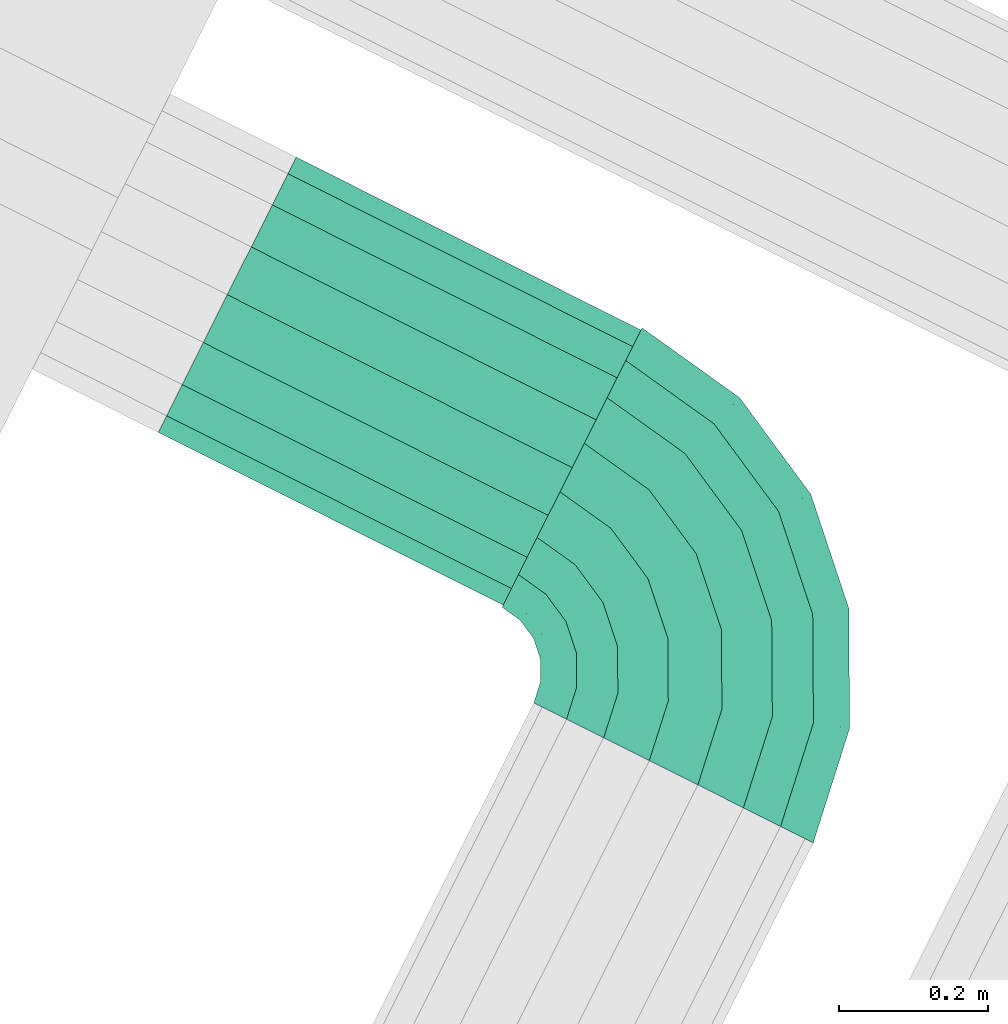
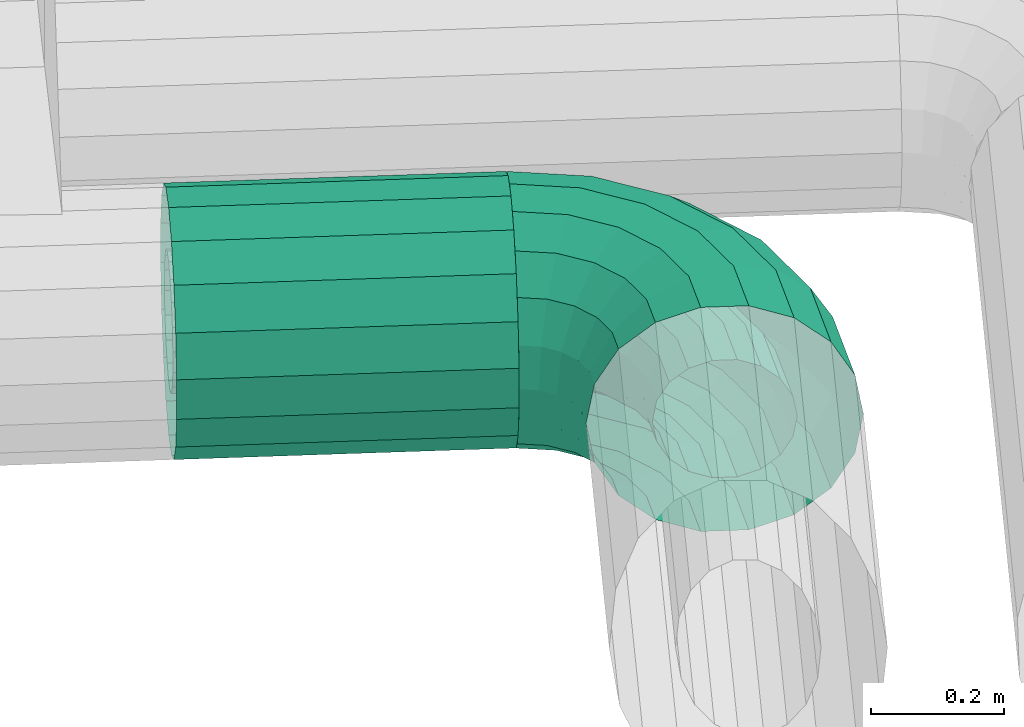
# One storey, part 81 of 152: 2 flow segments.
"""IFC2X3 building model written with IfcOpenShell, lengths in metres."""

from ifc_helpers import new_model, si_unit, derived_unit, direction, frame, origin, place, context, subcontext, project, spatial, face_set, surface_model, source, transform, mapped, material, type_object, type_shapes, element, save


model = new_model("IFC2X3")

# Units and contexts
model_context = context("Model", 3, precision=5.2338327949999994e-05, world=origin(), true_north=direction((0.0, 1.0)))
body_context = subcontext(model_context, "Body", "Model", "MODEL_VIEW")
ifc_project = project(units=[si_unit("LENGTHUNIT", "METRE"), si_unit("AREAUNIT", "SQUARE_METRE"), si_unit("VOLUMEUNIT", "CUBIC_METRE"), si_unit("MASSUNIT", "GRAM", prefix="KILO"), si_unit("PLANEANGLEUNIT", "RADIAN"), derived_unit("THERMALTRANSMITTANCEUNIT", [(si_unit("MASSUNIT", "GRAM", prefix="KILO"), 1), (si_unit("THERMODYNAMICTEMPERATUREUNIT", "KELVIN"), -1), (si_unit("TIMEUNIT", "SECOND"), -3)])], contexts=[model_context])

# Site, building, storey
site_placement = place(None, frame((0.0, 0.0, 0.0), z_axis=(0.0, 0.0, 1.0), x_axis=(0.8939966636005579, -0.4480736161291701, 0.0)))
site = spatial("IfcSite", under=ifc_project, at=site_placement, Name="Default", CompositionType="ELEMENT")
building_placement = place(site_placement, origin())
building = spatial("IfcBuilding", under=site, at=building_placement, CompositionType="ELEMENT")
storey_placement = place(building_placement, frame((0.0, 0.0, 2.7499999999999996)))
storey = spatial("IfcBuildingStorey", under=building, at=storey_placement, Name="1. Obergeschoss", CompositionType="ELEMENT", Elevation=2.7499999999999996)

# Flow segments
ifc_material = material(Name="IfcSurfaceStyle #9317")
distribution_element_type_1 = type_object("IfcDistributionElementType", Name="Rohrbogen 249432:Rohrbogen 249432", material=ifc_material)
shared_shape_1 = source(origin(), body_context, "Body", "SurfaceModel", [
    surface_model("IfcFaceBasedSurfaceModel", [(32.19039487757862, 11.372356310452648, 5.635640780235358), (32.19039487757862, 11.365749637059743, 5.673109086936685), (32.31645629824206, 11.34578346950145, 5.673109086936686), (32.31849787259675, 11.352066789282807, 5.635640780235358), (32.4301779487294, 11.287839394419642, 5.673109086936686), (32.43406125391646, 11.293184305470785, 5.6356407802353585), (32.5204279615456, 11.19758938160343, 5.673109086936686), (32.52577287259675, 11.20147268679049, 5.6356407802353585), (32.57837203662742, 11.083867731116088, 5.673109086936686), (32.584655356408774, 11.085909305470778, 5.6356407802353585), (32.5983382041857, 10.957806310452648, 5.6731090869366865), (32.60494487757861, 10.957806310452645, 5.635640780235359), (32.19039487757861, 11.346726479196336, 5.706058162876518), (32.310577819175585, 11.32769137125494, 5.706058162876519), (32.418996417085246, 11.27244933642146, 5.706058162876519), (32.505037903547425, 11.186407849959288, 5.706058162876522), (32.560279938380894, 11.07798925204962, 5.70605816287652), (32.579315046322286, 10.957806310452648, 5.706058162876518), (32.19039487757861, 11.317581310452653, 5.730513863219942), (32.30157146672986, 11.29997266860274, 5.7305138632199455), (32.40186531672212, 11.248870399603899, 5.730513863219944), (32.48145896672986, 11.169276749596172, 5.730513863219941), (32.532561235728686, 11.068982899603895, 5.730513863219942), (32.550169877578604, 10.957806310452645, 5.730513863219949), (32.19039487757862, 11.281829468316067, 5.743526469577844), (32.29052353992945, 11.265970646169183, 5.743526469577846), (32.38085091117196, 11.219946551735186, 5.743526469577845), (32.45253511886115, 11.148262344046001, 5.743526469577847), (32.49855921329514, 11.057934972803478, 5.743526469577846), (32.51441803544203, 10.957806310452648, 5.743526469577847), (32.19039487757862, 11.243783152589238, 5.743526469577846), (32.2787665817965, 11.229786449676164, 5.743526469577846), (32.35848784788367, 11.189166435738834, 5.743526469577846), (32.42175500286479, 11.125899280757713, 5.743526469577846), (32.46237501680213, 11.046178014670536, 5.743526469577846), (32.4763717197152, 10.957806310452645, 5.743526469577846), (32.19039487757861, 11.208031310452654, 5.730513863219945), (32.26771865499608, 11.195784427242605, 5.730513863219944), (32.33747344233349, 11.160242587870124, 5.730513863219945), (32.39283115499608, 11.10488487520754, 5.7305138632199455), (32.428372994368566, 11.03513008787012, 5.730513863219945), (32.44061987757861, 10.957806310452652, 5.730513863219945), (32.19039487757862, 11.178886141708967, 5.706058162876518), (32.258712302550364, 11.168065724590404, 5.70605816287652), (32.32034234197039, 11.13666365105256, 5.706058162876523), (32.36925221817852, 11.087753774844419, 5.706058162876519), (32.40065429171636, 11.026123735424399, 5.706058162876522), (32.41147470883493, 10.95780631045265, 5.706058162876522), (32.19039487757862, 11.159862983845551, 5.673109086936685), (32.25283382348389, 11.149973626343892, 5.673109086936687), (32.30916081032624, 11.12127359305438, 5.6731090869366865), (32.35386216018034, 11.076572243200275, 5.673109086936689), (32.38256219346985, 11.020245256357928, 5.673109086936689), (32.392451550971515, 10.95780631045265, 5.6731090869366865), (32.19039487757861, 11.153256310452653, 5.6356407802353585), (32.2507922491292, 11.143690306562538, 5.635640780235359), (32.30527750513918, 11.115928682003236, 5.635640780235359), (32.348517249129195, 11.072688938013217, 5.63564078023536), (32.3762788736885, 11.018203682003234, 5.635640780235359), (32.38584487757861, 10.957806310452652, 5.635640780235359), (32.19039487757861, 11.15986298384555, 5.5981724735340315), (32.25283382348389, 11.149973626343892, 5.598172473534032), (32.30916081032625, 11.121273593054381, 5.598172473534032), (32.35386216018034, 11.07657224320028, 5.598172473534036), (32.38256219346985, 11.020245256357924, 5.598172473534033), (32.392451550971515, 10.95780631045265, 5.598172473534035), (32.19039487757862, 11.178886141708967, 5.565223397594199), (32.258712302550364, 11.168065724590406, 5.5652233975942), (32.32034234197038, 11.13666365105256, 5.565223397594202), (32.36925221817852, 11.087753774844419, 5.565223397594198), (32.400654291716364, 11.026123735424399, 5.565223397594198), (32.41147470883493, 10.95780631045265, 5.5652233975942), (32.19039487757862, 11.20803131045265, 5.5407676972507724), (32.26771865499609, 11.195784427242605, 5.540767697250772), (32.33747344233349, 11.160242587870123, 5.540767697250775), (32.39283115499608, 11.104884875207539, 5.540767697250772), (32.42837299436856, 11.03513008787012, 5.540767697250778), (32.44061987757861, 10.95780631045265, 5.540767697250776), (32.19039487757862, 11.243783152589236, 5.52775509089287), (32.2787665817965, 11.229786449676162, 5.527755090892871), (32.35848784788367, 11.189166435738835, 5.527755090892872), (32.42175500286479, 11.12589928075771, 5.527755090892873), (32.46237501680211, 11.046178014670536, 5.527755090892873), (32.476371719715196, 10.957806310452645, 5.5277550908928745), (32.19039487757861, 11.281829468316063, 5.527755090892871), (32.290523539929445, 11.265970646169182, 5.527755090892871), (32.38085091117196, 11.219946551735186, 5.527755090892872), (32.45253511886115, 11.148262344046, 5.527755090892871), (32.49855921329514, 11.057934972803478, 5.527755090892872), (32.51441803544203, 10.957806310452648, 5.527755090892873), (32.19039487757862, 11.317581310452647, 5.540767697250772), (32.30157146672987, 11.299972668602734, 5.5407676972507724), (32.40186531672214, 11.248870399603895, 5.5407676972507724), (32.48145896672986, 11.169276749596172, 5.5407676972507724), (32.5325612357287, 11.068982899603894, 5.5407676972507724), (32.550169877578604, 10.957806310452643, 5.540767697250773), (32.19039487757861, 11.346726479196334, 5.565223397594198), (32.310577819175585, 11.327691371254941, 5.565223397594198), (32.418996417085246, 11.272449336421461, 5.565223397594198), (32.505037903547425, 11.186407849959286, 5.565223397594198), (32.5602799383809, 11.077989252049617, 5.565223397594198), (32.579315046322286, 10.957806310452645, 5.565223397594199), (32.19039487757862, 11.365749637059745, 5.598172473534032), (32.31645629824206, 11.345783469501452, 5.598172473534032), (32.430177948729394, 11.287839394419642, 5.598172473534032), (32.5204279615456, 11.197589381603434, 5.598172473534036), (32.578372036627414, 11.08386773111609, 5.59817247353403), (32.5983382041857, 10.957806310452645, 5.598172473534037), (32.19039487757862, 11.47235631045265, 5.635640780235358), (32.19039487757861, 11.45971889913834, 5.7073111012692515), (32.34549439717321, 11.435153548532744, 5.7073111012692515), (32.349399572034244, 11.44717244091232, 5.6356407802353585), (32.485411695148, 11.36386212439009, 5.7073111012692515), (32.492839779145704, 11.374086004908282, 5.635640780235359), (32.59645069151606, 11.252823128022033, 5.707311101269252), (32.606674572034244, 11.260251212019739, 5.6356407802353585), (32.667742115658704, 11.112905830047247, 5.707311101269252), (32.67976100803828, 11.11681100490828, 5.635640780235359), (32.6923074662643, 10.957806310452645, 5.707311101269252), (32.70494487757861, 10.957806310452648, 5.635640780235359), (32.19039487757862, 11.423330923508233, 5.770336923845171), (32.33424989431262, 11.400546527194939, 5.770336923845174), (32.46402337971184, 11.33442363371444, 5.770336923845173), (32.567012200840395, 11.231434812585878, 5.770336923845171), (32.6331350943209, 11.10166132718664, 5.770336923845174), (32.65591949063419, 10.957806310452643, 5.770336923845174), (32.19039487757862, 11.367581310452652, 5.817116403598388), (32.317022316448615, 11.347525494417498, 5.817116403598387), (32.431254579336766, 11.289321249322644, 5.817116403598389), (32.521909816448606, 11.198666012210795, 5.817116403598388), (32.58011406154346, 11.08443374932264, 5.8171164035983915), (32.6001698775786, 10.957806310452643, 5.817116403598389), (32.19039487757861, 11.299194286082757, 5.842007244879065), (32.29588956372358, 11.282485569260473, 5.842007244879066), (32.391057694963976, 11.233994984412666, 5.842007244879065), (32.46658355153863, 11.158469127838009, 5.842007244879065), (32.51507413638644, 11.06330099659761, 5.842007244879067), (32.53178285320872, 10.957806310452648, 5.842007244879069), (32.19039487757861, 11.226418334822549, 5.842007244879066), (32.273400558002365, 11.213271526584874, 5.842007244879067), (32.348281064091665, 11.175118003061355, 5.842007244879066), (32.407706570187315, 11.115692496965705, 5.842007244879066), (32.445860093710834, 11.040811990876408, 5.842007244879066), (32.459006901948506, 10.95780631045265, 5.842007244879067), (32.19039487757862, 11.158031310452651, 5.817116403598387), (32.25226780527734, 11.14823160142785, 5.817116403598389), (32.30808417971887, 11.11979173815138, 5.81711640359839), (32.352380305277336, 11.075495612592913, 5.817116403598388), (32.38082016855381, 11.019679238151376, 5.81711640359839), (32.390619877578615, 10.95780631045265, 5.8171164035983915), (32.190394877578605, 11.102281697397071, 5.770336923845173), (32.23504022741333, 11.095210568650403, 5.770336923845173), (32.27531537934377, 11.074689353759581, 5.770336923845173), (32.30727792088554, 11.042726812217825, 5.770336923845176), (32.32779913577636, 11.002451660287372, 5.770336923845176), (32.33487026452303, 10.957806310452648, 5.7703369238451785), (32.19039487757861, 11.065893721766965, 5.707311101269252), (32.22379572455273, 11.060603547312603, 5.707311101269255), (32.25392706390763, 11.045250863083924, 5.707311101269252), (32.27783943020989, 11.021338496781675, 5.707311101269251), (32.29319211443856, 10.99120715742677, 5.707311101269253), (32.29848228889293, 10.95780631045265, 5.707311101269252), (32.19039487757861, 11.053256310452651, 5.635640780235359), (32.21989054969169, 11.048584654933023, 5.63564078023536), (32.24649897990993, 11.03502698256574, 5.635640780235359), (32.26761554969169, 11.01391041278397, 5.635640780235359), (32.28117322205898, 10.987301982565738, 5.635640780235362), (32.28584487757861, 10.95780631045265, 5.635640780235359), (32.19039487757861, 11.06589372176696, 5.563970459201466), (32.22379572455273, 11.060603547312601, 5.563970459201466), (32.25392706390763, 11.045250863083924, 5.563970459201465), (32.27783943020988, 11.021338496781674, 5.563970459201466), (32.293192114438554, 10.991207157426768, 5.563970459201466), (32.29848228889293, 10.95780631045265, 5.5639704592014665), (32.19039487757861, 11.102281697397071, 5.500944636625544), (32.235040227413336, 11.095210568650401, 5.500944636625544), (32.27531537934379, 11.074689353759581, 5.500944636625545), (32.30727792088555, 11.042726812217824, 5.500944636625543), (32.32779913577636, 11.00245166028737, 5.5009446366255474), (32.334870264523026, 10.957806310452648, 5.500944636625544), (32.19039487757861, 11.158031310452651, 5.454165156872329), (32.252267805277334, 11.148231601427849, 5.45416515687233), (32.30808417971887, 11.119791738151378, 5.454165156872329), (32.352380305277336, 11.075495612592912, 5.454165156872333), (32.380820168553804, 11.019679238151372, 5.454165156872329), (32.39061987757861, 10.957806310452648, 5.454165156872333), (32.19039487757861, 11.226418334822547, 5.429274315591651), (32.273400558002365, 11.213271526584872, 5.42927431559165), (32.348281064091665, 11.175118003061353, 5.429274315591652), (32.40770657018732, 11.115692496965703, 5.429274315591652), (32.445860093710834, 11.040811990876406, 5.429274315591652), (32.45900690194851, 10.957806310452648, 5.429274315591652), (32.19039487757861, 11.299194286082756, 5.429274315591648), (32.29588956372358, 11.282485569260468, 5.429274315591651), (32.39105769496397, 11.233994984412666, 5.429274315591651), (32.466583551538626, 11.158469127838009, 5.429274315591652), (32.51507413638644, 11.06330099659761, 5.429274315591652), (32.53178285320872, 10.957806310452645, 5.429274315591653), (32.19039487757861, 11.367581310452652, 5.454165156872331), (32.31702231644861, 11.347525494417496, 5.45416515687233), (32.43125457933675, 11.289321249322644, 5.454165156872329), (32.521909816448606, 11.198666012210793, 5.454165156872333), (32.580114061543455, 11.084433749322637, 5.454165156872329), (32.6001698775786, 10.957806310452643, 5.454165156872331), (32.19039487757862, 11.423330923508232, 5.500944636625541), (32.33424989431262, 11.400546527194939, 5.500944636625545), (32.46402337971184, 11.334423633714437, 5.500944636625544), (32.5670122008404, 11.231434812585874, 5.50094463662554), (32.6331350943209, 11.10166132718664, 5.500944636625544), (32.6559194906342, 10.957806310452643, 5.500944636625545), (32.19039487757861, 11.45971889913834, 5.563970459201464), (32.34549439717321, 11.435153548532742, 5.563970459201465), (32.485411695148, 11.363862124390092, 5.563970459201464), (32.59645069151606, 11.252823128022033, 5.563970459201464), (32.667742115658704, 11.112905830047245, 5.5639704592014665), (32.6923074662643, 10.957806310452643, 5.563970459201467)], [face_set([[[0, 1, 2, 3]], [[3, 2, 4, 5]], [[5, 4, 6, 7]], [[7, 6, 8, 9]], [[9, 8, 10, 11]], [[1, 12, 13, 2]], [[2, 13, 14, 4]], [[4, 14, 15, 6]], [[6, 15, 16, 8]], [[8, 16, 17, 10]], [[12, 18, 19, 13]], [[13, 19, 20, 14]], [[14, 20, 21, 15]], [[15, 21, 22, 16]], [[16, 22, 23, 17]], [[18, 24, 25, 19]], [[19, 25, 26, 20]], [[20, 26, 27, 21]], [[21, 27, 28, 22]], [[22, 28, 29, 23]], [[24, 30, 31, 25]], [[25, 31, 32, 26]], [[26, 32, 33, 27]], [[27, 33, 34, 28]], [[28, 34, 35, 29]], [[30, 36, 37, 31]], [[31, 37, 38, 32]], [[32, 38, 39, 33]], [[33, 39, 40, 34]], [[34, 40, 41, 35]], [[36, 42, 43, 37]], [[37, 43, 44, 38]], [[38, 44, 45, 39]], [[39, 45, 46, 40]], [[40, 46, 47, 41]], [[42, 48, 49, 43]], [[43, 49, 50, 44]], [[44, 50, 51, 45]], [[45, 51, 52, 46]], [[46, 52, 53, 47]], [[48, 54, 55, 49]], [[49, 55, 56, 50]], [[50, 56, 57, 51]], [[51, 57, 58, 52]], [[52, 58, 59, 53]], [[54, 60, 61, 55]], [[55, 61, 62, 56]], [[56, 62, 63, 57]], [[57, 63, 64, 58]], [[58, 64, 65, 59]], [[60, 66, 67, 61]], [[61, 67, 68, 62]], [[62, 68, 69, 63]], [[63, 69, 70, 64]], [[64, 70, 71, 65]], [[66, 72, 73, 67]], [[67, 73, 74, 68]], [[68, 74, 75, 69]], [[69, 75, 76, 70]], [[70, 76, 77, 71]], [[72, 78, 79, 73]], [[73, 79, 80, 74]], [[74, 80, 81, 75]], [[75, 81, 82, 76]], [[76, 82, 83, 77]], [[78, 84, 85, 79]], [[79, 85, 86, 80]], [[80, 86, 87, 81]], [[81, 87, 88, 82]], [[82, 88, 89, 83]], [[84, 90, 91, 85]], [[85, 91, 92, 86]], [[86, 92, 93, 87]], [[87, 93, 94, 88]], [[88, 94, 95, 89]], [[90, 96, 97, 91]], [[91, 97, 98, 92]], [[92, 98, 99, 93]], [[93, 99, 100, 94]], [[94, 100, 101, 95]], [[96, 102, 103, 97]], [[97, 103, 104, 98]], [[98, 104, 105, 99]], [[99, 105, 106, 100]], [[100, 106, 107, 101]], [[102, 0, 3, 103]], [[103, 3, 5, 104]], [[104, 5, 7, 105]], [[105, 7, 9, 106]], [[106, 9, 11, 107]], [[108, 109, 110, 111]], [[111, 110, 112, 113]], [[113, 112, 114, 115]], [[115, 114, 116, 117]], [[117, 116, 118, 119]], [[109, 120, 121, 110]], [[110, 121, 122, 112]], [[112, 122, 123, 114]], [[114, 123, 124, 116]], [[116, 124, 125, 118]], [[120, 126, 127, 121]], [[121, 127, 128, 122]], [[122, 128, 129, 123]], [[123, 129, 130, 124]], [[124, 130, 131, 125]], [[126, 132, 133, 127]], [[127, 133, 134, 128]], [[128, 134, 135, 129]], [[129, 135, 136, 130]], [[130, 136, 137, 131]], [[132, 138, 139, 133]], [[133, 139, 140, 134]], [[134, 140, 141, 135]], [[135, 141, 142, 136]], [[136, 142, 143, 137]], [[138, 144, 145, 139]], [[139, 145, 146, 140]], [[140, 146, 147, 141]], [[141, 147, 148, 142]], [[142, 148, 149, 143]], [[144, 150, 151, 145]], [[145, 151, 152, 146]], [[146, 152, 153, 147]], [[147, 153, 154, 148]], [[148, 154, 155, 149]], [[150, 156, 157, 151]], [[151, 157, 158, 152]], [[152, 158, 159, 153]], [[153, 159, 160, 154]], [[154, 160, 161, 155]], [[156, 162, 163, 157]], [[157, 163, 164, 158]], [[158, 164, 165, 159]], [[159, 165, 166, 160]], [[160, 166, 167, 161]], [[162, 168, 169, 163]], [[163, 169, 170, 164]], [[164, 170, 171, 165]], [[165, 171, 172, 166]], [[166, 172, 173, 167]], [[168, 174, 175, 169]], [[169, 175, 176, 170]], [[170, 176, 177, 171]], [[171, 177, 178, 172]], [[172, 178, 179, 173]], [[174, 180, 181, 175]], [[175, 181, 182, 176]], [[176, 182, 183, 177]], [[177, 183, 184, 178]], [[178, 184, 185, 179]], [[180, 186, 187, 181]], [[181, 187, 188, 182]], [[182, 188, 189, 183]], [[183, 189, 190, 184]], [[184, 190, 191, 185]], [[186, 192, 193, 187]], [[187, 193, 194, 188]], [[188, 194, 195, 189]], [[189, 195, 196, 190]], [[190, 196, 197, 191]], [[192, 198, 199, 193]], [[193, 199, 200, 194]], [[194, 200, 201, 195]], [[195, 201, 202, 196]], [[196, 202, 203, 197]], [[198, 204, 205, 199]], [[199, 205, 206, 200]], [[200, 206, 207, 201]], [[201, 207, 208, 202]], [[202, 208, 209, 203]], [[204, 210, 211, 205]], [[205, 211, 212, 206]], [[206, 212, 213, 207]], [[207, 213, 214, 208]], [[208, 214, 215, 209]], [[210, 108, 111, 211]], [[211, 111, 113, 212]], [[212, 113, 115, 213]], [[213, 115, 117, 214]], [[214, 117, 119, 215]]])]),
])
type_shapes(distribution_element_type_1, [shared_shape_1])
flow_segment_1_placement = place(storey_placement, frame((0.0, 0.0, -2.7499999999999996)))
element("IfcFlowSegment", 1, at=flow_segment_1_placement, inside=storey, type_object=distribution_element_type_1, material=ifc_material, Name="Rohrbogen", ObjectType="Rohrbogen", context=body_context, shape_type="MappedRepresentation", body=[
    mapped(shared_shape_1, transform((0.0, 0.0, 0.0), scale=1.0)),
])
distribution_element_type_2 = type_object("IfcDistributionElementType", Name="Stahlrohr nach DIN 2448 250631:Stahlrohr nach DIN 2448 250631", material=ifc_material)
shared_shape_2 = source(origin(), body_context, "Body", "SurfaceModel", [
    surface_model("IfcFaceBasedSurfaceModel", [(32.19039487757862, 11.262806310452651, 5.7451907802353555), (32.19039487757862, 11.30027461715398, 5.738584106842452), (31.673034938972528, 11.300274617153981, 5.738584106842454), (31.673034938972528, 11.262806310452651, 5.745190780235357), (32.19039487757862, 11.333223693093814, 5.719560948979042), (31.673034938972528, 11.333223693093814, 5.719560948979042), (32.19039487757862, 11.35767939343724, 5.690415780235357), (31.673034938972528, 11.357679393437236, 5.690415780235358), (32.19039487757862, 11.37069199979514, 5.654663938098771), (31.673034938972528, 11.37069199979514, 5.65466393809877), (32.19039487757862, 11.37069199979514, 5.6166176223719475), (31.673034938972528, 11.37069199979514, 5.616617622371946), (32.19039487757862, 11.35767939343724, 5.580865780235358), (31.673034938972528, 11.35767939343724, 5.580865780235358), (32.19039487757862, 11.333223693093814, 5.551720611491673), (31.673034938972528, 11.333223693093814, 5.551720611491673), (32.19039487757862, 11.300274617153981, 5.532697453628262), (31.673034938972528, 11.300274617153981, 5.532697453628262), (32.19039487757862, 11.262806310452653, 5.526090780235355), (31.673034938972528, 11.262806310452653, 5.526090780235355), (32.19039487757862, 11.225338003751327, 5.532697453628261), (31.673034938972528, 11.225338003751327, 5.532697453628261), (32.19039487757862, 11.192388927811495, 5.551720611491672), (31.673034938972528, 11.192388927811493, 5.551720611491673), (32.19039487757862, 11.167933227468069, 5.580865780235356), (31.673034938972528, 11.167933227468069, 5.580865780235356), (32.19039487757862, 11.154920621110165, 5.616617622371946), (31.673034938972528, 11.154920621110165, 5.616617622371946), (32.19039487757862, 11.154920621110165, 5.654663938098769), (31.673034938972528, 11.154920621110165, 5.654663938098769), (32.19039487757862, 11.167933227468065, 5.690415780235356), (31.673034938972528, 11.167933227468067, 5.690415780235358), (32.19039487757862, 11.192388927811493, 5.71956094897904), (31.673034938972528, 11.192388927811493, 5.71956094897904), (32.19039487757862, 11.225338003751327, 5.738584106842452), (31.673034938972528, 11.225338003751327, 5.738584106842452), (32.19039487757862, 11.26280631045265, 5.845190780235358), (32.19039487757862, 11.334476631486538, 5.8325533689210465), (31.673034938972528, 11.334476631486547, 5.832553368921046), (31.673034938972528, 11.26280631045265, 5.845190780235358), (32.19039487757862, 11.397502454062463, 5.796165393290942), (31.673034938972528, 11.397502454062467, 5.796165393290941), (32.19039487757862, 11.444281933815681, 5.740415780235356), (31.673034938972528, 11.44428193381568, 5.740415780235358), (32.19039487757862, 11.469172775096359, 5.672028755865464), (31.673034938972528, 11.469172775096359, 5.672028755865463), (32.19039487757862, 11.46917277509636, 5.599252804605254), (31.673034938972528, 11.469172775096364, 5.599252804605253), (32.19039487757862, 11.444281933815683, 5.530865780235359), (31.673034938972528, 11.444281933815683, 5.530865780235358), (32.19039487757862, 11.39750245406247, 5.475116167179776), (31.673034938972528, 11.397502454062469, 5.475116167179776), (32.19039487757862, 11.334476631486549, 5.4387281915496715), (31.673034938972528, 11.33447663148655, 5.4387281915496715), (32.19039487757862, 11.262806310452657, 5.426090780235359), (31.673034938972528, 11.262806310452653, 5.4260907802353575), (32.19039487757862, 11.191135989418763, 5.438728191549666), (31.673034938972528, 11.19113598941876, 5.438728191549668), (32.19039487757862, 11.128110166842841, 5.47511616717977), (31.673034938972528, 11.12811016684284, 5.475116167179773), (32.19039487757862, 11.081330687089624, 5.530865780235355), (31.673034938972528, 11.081330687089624, 5.530865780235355), (32.19039487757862, 11.056439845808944, 5.599252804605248), (31.673034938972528, 11.056439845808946, 5.59925280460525), (32.19039487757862, 11.056439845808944, 5.672028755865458), (31.673034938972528, 11.056439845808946, 5.672028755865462), (32.19039487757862, 11.081330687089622, 5.740415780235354), (31.673034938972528, 11.081330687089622, 5.740415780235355), (32.19039487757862, 11.128110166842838, 5.796165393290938), (31.673034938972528, 11.128110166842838, 5.796165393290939), (32.19039487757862, 11.191135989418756, 5.83255336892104), (31.673034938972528, 11.191135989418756, 5.832553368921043)], [face_set([[[0, 1, 2, 3]], [[1, 4, 5, 2]], [[4, 6, 7, 5]], [[6, 8, 9, 7]], [[8, 10, 11, 9]], [[10, 12, 13, 11]], [[12, 14, 15, 13]], [[14, 16, 17, 15]], [[16, 18, 19, 17]], [[18, 20, 21, 19]], [[20, 22, 23, 21]], [[22, 24, 25, 23]], [[24, 26, 27, 25]], [[26, 28, 29, 27]], [[28, 30, 31, 29]], [[30, 32, 33, 31]], [[32, 34, 35, 33]], [[34, 0, 3, 35]], [[36, 37, 38, 39]], [[37, 40, 41, 38]], [[40, 42, 43, 41]], [[42, 44, 45, 43]], [[44, 46, 47, 45]], [[46, 48, 49, 47]], [[48, 50, 51, 49]], [[50, 52, 53, 51]], [[52, 54, 55, 53]], [[54, 56, 57, 55]], [[56, 58, 59, 57]], [[58, 60, 61, 59]], [[60, 62, 63, 61]], [[62, 64, 65, 63]], [[64, 66, 67, 65]], [[66, 68, 69, 67]], [[68, 70, 71, 69]], [[70, 36, 39, 71]]])]),
])
type_shapes(distribution_element_type_2, [shared_shape_2])
flow_segment_2_placement = place(storey_placement, frame((0.0, 0.0, -2.7499999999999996)))
element("IfcFlowSegment", 2, at=flow_segment_2_placement, inside=storey, type_object=distribution_element_type_2, material=ifc_material, Name="Stahlrohr nach DIN 2448", ObjectType="Stahlrohr nach DIN 2448", context=body_context, shape_type="MappedRepresentation", body=[
    mapped(shared_shape_2, transform((0.0, 0.0, 0.0), scale=1.0)),
])

save(model, "model.ifc")
